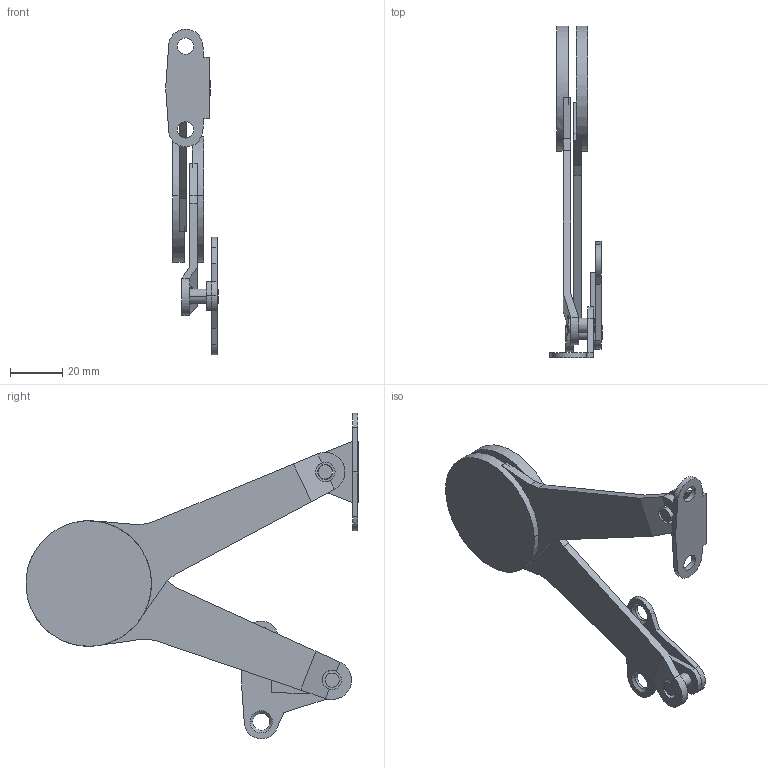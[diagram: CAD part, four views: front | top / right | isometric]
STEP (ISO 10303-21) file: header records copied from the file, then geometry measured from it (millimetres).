
FILE_DESCRIPTION(('STEP AP242'),'1');
FILE_NAME('OPO_50.694.01.stp','2025-11-08T20:21:20',(' '),(' '),'Spatial InterOp 3D',' ',' ');
FILE_SCHEMA(('AP242_MANAGED_MODEL_BASED_3D_ENGINEERING_MIM_LF {1 0 10303 442 1 1 4}'));
Length unit declared in the file: millimetre
Products named in the file (1): 1
Bounding box: 20.12 x 126.91 x 124.47 mm (x, y, z)
Volume: 30247.9 mm3; surface area: 21288.2 mm2
Topology: 9 solids, 9 shells, 147 faces, 374 edges, 242 vertices
Faces by surface type: plane 81, cylinder 62, cone 4
Entity records: 5835 total; most frequent: CARTESIAN_POINT 904, DIRECTION 817, ORIENTED_EDGE 748, EDGE_CURVE 374, AXIS2_PLACEMENT_3D 291, VERTEX_POINT 242, LINE 235, VECTOR 235
